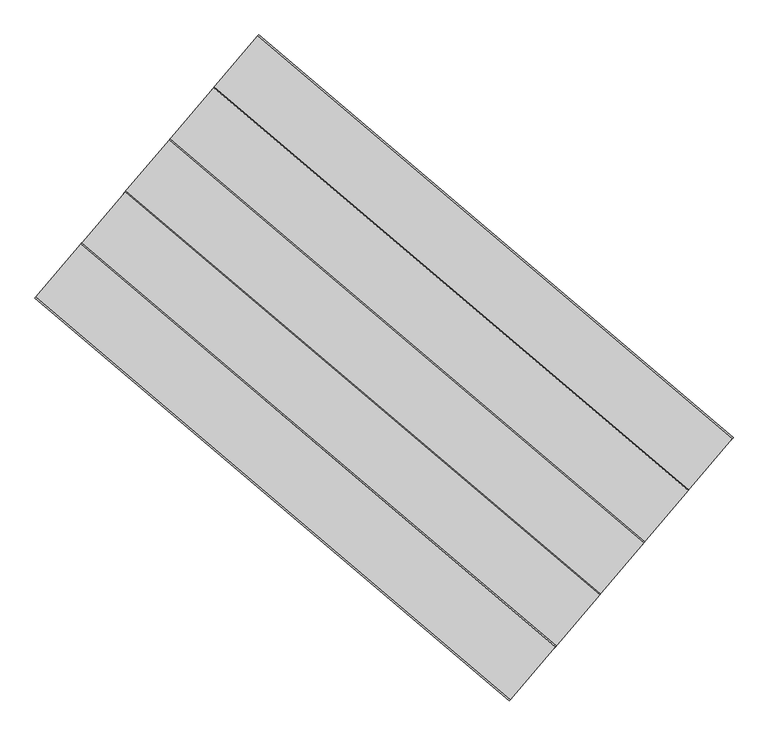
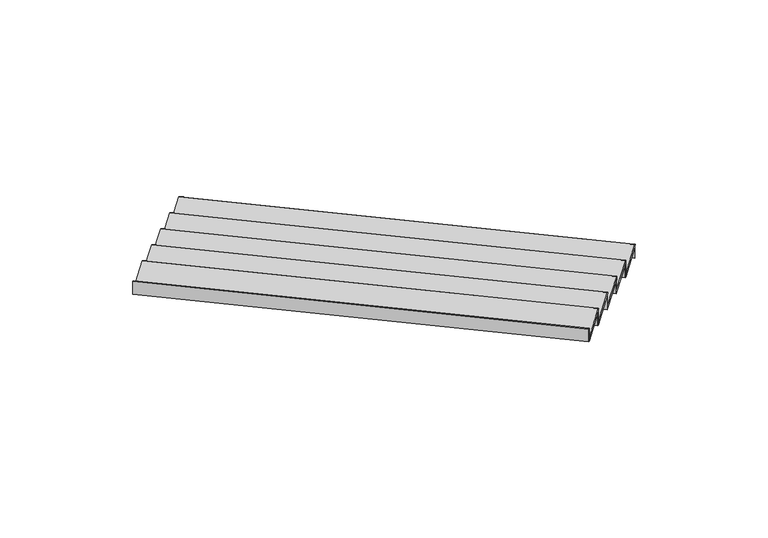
"""IFC4 building model written with IfcOpenShell, lengths in millimetres: stair flight geometry, Wood Steps with 50 mm Tread 20 mm Nosing 13 mm Riser."""

from ifc_helpers import new_model, si_unit, frame, origin, place, context, project, spatial, ellipse_curve, faceted_brep, source, transform, mapped, element, save
from ifc_brep_helpers import plane_surface, cylinder_surface, advanced_brep


def stair_flight_5db356ac(model_context):
    return source(origin(), model_context, "Body", "SolidModel", [
        advanced_brep(
        [(823418.1616626, 71948.0778749, 159.2941176), (823418.1616626, 71948.0778749, 179.2941176), (827502.2024398, 68479.0084888, 179.2941176), (827502.2024398, 68479.0084888, 159.2941176), (827114.817618, 68022.9071265, 179.2941176), (823030.7768408, 71491.9765126, 179.2941176), (827502.2024398, 68479.0084888, 129.2941176), (827114.817618, 68022.9071265, 129.2941176), (823030.7768408, 71491.9765126, 129.2941176), (823418.1616626, 71948.0778749, 129.2941176)],
        [
            (0, 1, ellipse_curve(frame((823418.1616626, 71948.0778749, 169.2941176), z_axis=(0.762187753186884, -0.6473560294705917, 0.0), x_axis=(0.647356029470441, 0.7621877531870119, 0.0)), 10.0, 10.0)),
            (1, 2),
            (2, 3, ellipse_curve(frame((827502.2024398, 68479.0084888, 169.2941176), z_axis=(-0.7621877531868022, 0.647356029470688, 0.0), x_axis=(0.6473560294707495, 0.7621877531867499, 0.0)), 10.0, 10.0)),
            (3, 0),
            (4, 2),
            (1, 5),
            (5, 4),
            (6, 7),
            (7, 8),
            (8, 9),
            (9, 6),
            (4, 7),
            (6, 3),
            (9, 0),
            (8, 5),
        ],
        [
            cylinder_surface(frame((823418.1616626, 71948.0778749, 169.2941176), z_axis=(-0.7621570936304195, 0.6473921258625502, 0.0), x_axis=(-0.6473921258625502, -0.7621570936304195, 0.0)), 10.0),
            plane_surface(frame((831427.2844799, 73100.3440831, 179.2941176), z_axis=(0.0, 0.0, 1.0), x_axis=(0.647356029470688, 0.7621877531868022, 0.0))),
            plane_surface(frame((831427.2844799, 73100.3440831, 129.2941176), z_axis=(0.0, 0.0, -1.0), x_axis=(-0.647356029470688, -0.7621877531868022, 0.0))),
            plane_surface(frame((827114.817618, 68022.9071265, 179.2941176), z_axis=(0.7621877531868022, -0.647356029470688, 0.0), x_axis=(0.0, 0.0, -1.0))),
            plane_surface(frame((827502.2024398, 68479.0084888, 179.2941176), z_axis=(0.6473921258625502, 0.7621570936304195, 0.0), x_axis=(0.0, 0.0, -1.0))),
            plane_surface(frame((823418.1616626, 71948.0778749, 179.2941176), z_axis=(-0.762187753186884, 0.6473560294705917, 0.0), x_axis=(0.0, 0.0, -1.0))),
            plane_surface(frame((823030.7768408, 71491.9765126, 179.2941176), z_axis=(-0.6473921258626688, -0.7621570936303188, 0.0), x_axis=(0.0, 0.0, -1.0))),
        ],
        [
            (0, [[1, 2, 3, 4]]),
            (1, [[5, -2, 6, 7]]),
            (2, [[8, 9, 10, 11]]),
            (3, [[-5, 12, -8, 13, -3]]),
            (4, [[-11, 14, -4, -13]]),
            (5, [[-6, -1, -14, -10, 15]]),
            (6, [[-7, -15, -9, -12]]),
        ],
    ),
        faceted_brep([(823411.6881022, 71940.4559973, 129.2941176), (823411.6881022, 71940.4559973, 0.0), (823403.5961519, 71930.9286504, 0.0), (823403.5961519, 71930.9286504, 129.2941176), (827495.7288795, 68471.3866112, 129.2941176), (827487.6369291, 68461.8592643, 129.2941176), (827487.6369291, 68461.8592643, 0.0), (827495.7288795, 68471.3866112, 0.0)], [[[0, 1, 2, 3]], [[4, 5, 6, 7]], [[1, 0, 4, 7]], [[2, 1, 7, 6]], [[3, 2, 6, 5]], [[0, 3, 5, 4]]]),
        faceted_brep([(823030.7768408, 71491.9765126, 308.5882353), (823030.7768408, 71491.9765126, 129.2941176), (823022.6848904, 71482.4491656, 129.2941176), (823022.6848904, 71482.4491656, 308.5882353), (827114.817618, 68022.9071265, 308.5882353), (827106.7256677, 68013.3797796, 308.5882353), (827106.7256677, 68013.3797796, 129.2941176), (827114.817618, 68022.9071265, 129.2941176)], [[[0, 1, 2, 3]], [[4, 5, 6, 7]], [[1, 0, 4, 7]], [[2, 1, 7, 6]], [[3, 2, 6, 5]], [[0, 3, 5, 4]]]),
        advanced_brep(
        [(826733.9063565, 67574.4276417, 358.5882353), (827121.2911783, 68030.529004, 358.5882353), (823037.2504011, 71499.5983901, 358.5882353), (822649.8655793, 71043.4970278, 358.5882353), (827121.2911783, 68030.529004, 308.5882353), (826733.9063565, 67574.4276417, 308.5882353), (822649.8655793, 71043.4970278, 308.5882353), (823037.2504011, 71499.5983901, 308.5882353), (827121.2911783, 68030.529004, 338.5882353), (823037.2504011, 71499.5983901, 338.5882353)],
        [
            (0, 1),
            (1, 2),
            (2, 3),
            (3, 0),
            (4, 5),
            (5, 6),
            (6, 7),
            (7, 4),
            (0, 5),
            (4, 8),
            (8, 1, ellipse_curve(frame((827121.2911783, 68030.529004, 348.5882353), z_axis=(0.7621877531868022, -0.647356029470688, 0.0), x_axis=(0.647356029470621, 0.7621877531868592, 0.0)), 10.0, 10.0)),
            (7, 9),
            (9, 8),
            (2, 9, ellipse_curve(frame((823037.2504011, 71499.5983901, 348.5882353), z_axis=(-0.762187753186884, 0.6473560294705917, 0.0), x_axis=(0.6473560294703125, 0.7621877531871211, 0.0)), 10.0, 10.0)),
            (6, 3),
        ],
        [
            plane_surface(frame((831427.2844799, 73100.3440831, 358.5882353), z_axis=(0.0, 0.0, 1.0), x_axis=(0.647356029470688, 0.7621877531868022, 0.0))),
            plane_surface(frame((831427.2844799, 73100.3440831, 308.5882353), z_axis=(0.0, 0.0, -1.0), x_axis=(-0.647356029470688, -0.7621877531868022, 0.0))),
            plane_surface(frame((826733.9063565, 67574.4276417, 358.5882353), z_axis=(0.7621877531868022, -0.647356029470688, 0.0), x_axis=(0.0, 0.0, -1.0))),
            plane_surface(frame((827121.2911783, 68030.529004, 358.5882353), z_axis=(0.6473921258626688, 0.7621570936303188, 0.0), x_axis=(0.0, 0.0, -1.0))),
            plane_surface(frame((823037.2504011, 71499.5983901, 358.5882353), z_axis=(-0.762187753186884, 0.6473560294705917, 0.0), x_axis=(0.0, 0.0, -1.0))),
            plane_surface(frame((822649.8655793, 71043.4970278, 358.5882353), z_axis=(-0.6473921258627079, -0.7621570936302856, 0.0), x_axis=(0.0, 0.0, -1.0))),
            cylinder_surface(frame((823037.2504011, 71499.5983901, 348.5882353), z_axis=(-0.7621570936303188, 0.6473921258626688, 0.0), x_axis=(-0.6473921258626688, -0.7621570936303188, 0.0)), 10.0),
        ],
        [
            (0, [[1, 2, 3, 4]]),
            (1, [[5, 6, 7, 8]]),
            (2, [[-1, 9, -5, 10, 11]]),
            (3, [[-8, 12, 13, -10]]),
            (4, [[-3, 14, -12, -7, 15]]),
            (5, [[-4, -15, -6, -9]]),
            (6, [[-14, -2, -11, -13]]),
        ],
    ),
        faceted_brep([(822649.8655793, 71043.4970278, 487.8823529), (822649.8655793, 71043.4970278, 308.5882353), (822641.7736289, 71033.9696809, 308.5882353), (822641.7736289, 71033.9696809, 487.8823529), (826733.9063565, 67574.4276417, 487.8823529), (826725.8144062, 67564.9002948, 487.8823529), (826725.8144062, 67564.9002948, 308.5882353), (826733.9063565, 67574.4276417, 308.5882353)], [[[0, 1, 2, 3]], [[4, 5, 6, 7]], [[1, 0, 4, 7]], [[2, 1, 7, 6]], [[3, 2, 6, 5]], [[0, 3, 5, 4]]]),
        advanced_brep(
        [(826352.9950951, 67125.948157, 537.8823529), (826740.3799169, 67582.0495193, 537.8823529), (822656.3391396, 71051.1189053, 537.8823529), (822268.9543178, 70595.017543, 537.8823529), (826740.3799169, 67582.0495193, 487.8823529), (826352.9950951, 67125.948157, 487.8823529), (822268.9543178, 70595.017543, 487.8823529), (822656.3391396, 71051.1189053, 487.8823529), (826740.3799169, 67582.0495193, 517.8823529), (822656.3391396, 71051.1189053, 517.8823529)],
        [
            (0, 1),
            (1, 2),
            (2, 3),
            (3, 0),
            (4, 5),
            (5, 6),
            (6, 7),
            (7, 4),
            (0, 5),
            (4, 8),
            (8, 1, ellipse_curve(frame((826740.3799169, 67582.0495193, 527.8823529), z_axis=(0.7621877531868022, -0.647356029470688, 0.0), x_axis=(0.647356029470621, 0.7621877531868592, 0.0)), 10.0, 10.0)),
            (7, 9),
            (9, 8),
            (2, 9, ellipse_curve(frame((822656.3391396, 71051.1189053, 527.8823529), z_axis=(-0.762187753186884, 0.6473560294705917, 0.0), x_axis=(0.6473560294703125, 0.7621877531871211, 0.0)), 10.0, 10.0)),
            (6, 3),
        ],
        [
            plane_surface(frame((831046.3732184, 72651.8645983, 537.8823529), z_axis=(0.0, 0.0, 1.0), x_axis=(0.647356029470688, 0.7621877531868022, 0.0))),
            plane_surface(frame((831046.3732184, 72651.8645983, 487.8823529), z_axis=(0.0, 0.0, -1.0), x_axis=(-0.647356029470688, -0.7621877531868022, 0.0))),
            plane_surface(frame((826352.9950951, 67125.948157, 537.8823529), z_axis=(0.7621877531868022, -0.647356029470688, 0.0), x_axis=(0.0, 0.0, -1.0))),
            plane_surface(frame((826740.3799169, 67582.0495193, 537.8823529), z_axis=(0.6473921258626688, 0.7621570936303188, 0.0), x_axis=(0.0, 0.0, -1.0))),
            plane_surface(frame((822656.3391396, 71051.1189053, 537.8823529), z_axis=(-0.762187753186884, 0.6473560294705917, 0.0), x_axis=(0.0, 0.0, -1.0))),
            plane_surface(frame((822268.9543178, 70595.017543, 537.8823529), z_axis=(-0.6473921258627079, -0.7621570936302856, 0.0), x_axis=(0.0, 0.0, -1.0))),
            cylinder_surface(frame((822656.3391396, 71051.1189053, 527.8823529), z_axis=(-0.7621570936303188, 0.6473921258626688, 0.0), x_axis=(-0.6473921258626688, -0.7621570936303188, 0.0)), 10.0),
        ],
        [
            (0, [[1, 2, 3, 4]]),
            (1, [[5, 6, 7, 8]]),
            (2, [[-1, 9, -5, 10, 11]]),
            (3, [[-8, 12, 13, -10]]),
            (4, [[-3, 14, -12, -7, 15]]),
            (5, [[-4, -15, -6, -9]]),
            (6, [[-14, -2, -11, -13]]),
        ],
    ),
        faceted_brep([(822268.9543178, 70595.017543, 667.1764706), (822268.9543178, 70595.017543, 487.8823529), (822260.8623674, 70585.4901961, 487.8823529), (822260.8623674, 70585.4901961, 667.1764706), (826352.9950951, 67125.948157, 667.1764706), (826344.9031447, 67116.42081, 667.1764706), (826344.9031447, 67116.42081, 487.8823529), (826352.9950951, 67125.948157, 487.8823529)], [[[0, 1, 2, 3]], [[4, 5, 6, 7]], [[1, 0, 4, 7]], [[2, 1, 7, 6]], [[3, 2, 6, 5]], [[0, 3, 5, 4]]]),
        advanced_brep(
        [(825972.0838336, 66677.4686722, 717.1764706), (826359.4686554, 67133.5700345, 717.1764706), (822275.4278781, 70602.6394206, 717.1764706), (821888.0430563, 70146.5380583, 717.1764706), (826359.4686554, 67133.5700345, 667.1764706), (825972.0838336, 66677.4686722, 667.1764706), (821888.0430563, 70146.5380583, 667.1764706), (822275.4278781, 70602.6394206, 667.1764706), (826359.4686554, 67133.5700345, 697.1764706), (822275.4278781, 70602.6394206, 697.1764706)],
        [
            (0, 1),
            (1, 2),
            (2, 3),
            (3, 0),
            (4, 5),
            (5, 6),
            (6, 7),
            (7, 4),
            (0, 5),
            (4, 8),
            (8, 1, ellipse_curve(frame((826359.4686554, 67133.5700345, 707.1764706), z_axis=(0.7621877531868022, -0.647356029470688, 0.0), x_axis=(0.647356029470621, 0.7621877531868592, 0.0)), 10.0, 10.0)),
            (7, 9),
            (9, 8),
            (2, 9, ellipse_curve(frame((822275.4278781, 70602.6394206, 707.1764706), z_axis=(-0.762187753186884, 0.6473560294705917, 0.0), x_axis=(0.6473560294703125, 0.7621877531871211, 0.0)), 10.0, 10.0)),
            (6, 3),
        ],
        [
            plane_surface(frame((830665.4619569, 72203.3851136, 717.1764706), z_axis=(0.0, 0.0, 1.0), x_axis=(0.647356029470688, 0.7621877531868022, 0.0))),
            plane_surface(frame((830665.4619569, 72203.3851136, 667.1764706), z_axis=(0.0, 0.0, -1.0), x_axis=(-0.647356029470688, -0.7621877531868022, 0.0))),
            plane_surface(frame((825972.0838336, 66677.4686722, 717.1764706), z_axis=(0.7621877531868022, -0.647356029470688, 0.0), x_axis=(0.0, 0.0, -1.0))),
            plane_surface(frame((826359.4686554, 67133.5700345, 717.1764706), z_axis=(0.6473921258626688, 0.7621570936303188, 0.0), x_axis=(0.0, 0.0, -1.0))),
            plane_surface(frame((822275.4278781, 70602.6394206, 717.1764706), z_axis=(-0.762187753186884, 0.6473560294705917, 0.0), x_axis=(0.0, 0.0, -1.0))),
            plane_surface(frame((821888.0430563, 70146.5380583, 717.1764706), z_axis=(-0.6473921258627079, -0.7621570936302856, 0.0), x_axis=(0.0, 0.0, -1.0))),
            cylinder_surface(frame((822275.4278781, 70602.6394206, 707.1764706), z_axis=(-0.7621570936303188, 0.6473921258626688, 0.0), x_axis=(-0.6473921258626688, -0.7621570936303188, 0.0)), 10.0),
        ],
        [
            (0, [[1, 2, 3, 4]]),
            (1, [[5, 6, 7, 8]]),
            (2, [[-1, 9, -5, 10, 11]]),
            (3, [[-8, 12, 13, -10]]),
            (4, [[-3, 14, -12, -7, 15]]),
            (5, [[-4, -15, -6, -9]]),
            (6, [[-14, -2, -11, -13]]),
        ],
    ),
        faceted_brep([(821888.0430563, 70146.5380583, 846.4705882), (821888.0430563, 70146.5380583, 667.1764706), (821879.951106, 70137.0107114, 667.1764706), (821879.951106, 70137.0107114, 846.4705882), (825972.0838336, 66677.4686722, 846.4705882), (825963.9918832, 66667.9413253, 846.4705882), (825963.9918832, 66667.9413253, 667.1764706), (825972.0838336, 66677.4686722, 667.1764706)], [[[0, 1, 2, 3]], [[4, 5, 6, 7]], [[1, 0, 4, 7]], [[2, 1, 7, 6]], [[3, 2, 6, 5]], [[0, 3, 5, 4]]]),
        faceted_brep([(821507.1317949, 69698.0585735, 1025.7647059), (821507.1317949, 69698.0585735, 846.4705882), (821499.0398445, 69688.5312266, 846.4705882), (821499.0398445, 69688.5312266, 1025.7647059), (825591.1725721, 66228.9891875, 1025.7647059), (825583.0806217, 66219.4618405, 1025.7647059), (825583.0806217, 66219.4618405, 846.4705882), (825591.1725721, 66228.9891875, 846.4705882)], [[[0, 1, 2, 3]], [[4, 5, 6, 7]], [[1, 0, 4, 7]], [[2, 1, 7, 6]], [[3, 2, 6, 5]], [[0, 3, 5, 4]]]),
        advanced_brep(
        [(825591.1725721, 66228.9891875, 896.4705882), (825978.5573939, 66685.0905498, 896.4705882), (821894.5166166, 70154.1599358, 896.4705882), (821507.1317949, 69698.0585735, 896.4705882), (825978.5573939, 66685.0905498, 846.4705882), (825591.1725721, 66228.9891875, 846.4705882), (821507.1317949, 69698.0585735, 846.4705882), (821894.5166166, 70154.1599358, 846.4705882), (825978.5573939, 66685.0905498, 876.4705882), (821894.5166166, 70154.1599358, 876.4705882)],
        [
            (0, 1),
            (1, 2),
            (2, 3),
            (3, 0),
            (4, 5),
            (5, 6),
            (6, 7),
            (7, 4),
            (0, 5),
            (4, 8),
            (8, 1, ellipse_curve(frame((825978.5573939, 66685.0905498, 886.4705882), z_axis=(0.7621877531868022, -0.647356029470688, 0.0), x_axis=(0.647356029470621, 0.7621877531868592, 0.0)), 10.0, 10.0)),
            (7, 9),
            (9, 8),
            (2, 9, ellipse_curve(frame((821894.5166166, 70154.1599358, 886.4705882), z_axis=(-0.762187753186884, 0.6473560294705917, 0.0), x_axis=(0.6473560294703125, 0.7621877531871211, 0.0)), 10.0, 10.0)),
            (6, 3),
        ],
        [
            plane_surface(frame((830284.5506954, 71754.9056288, 896.4705882), z_axis=(0.0, 0.0, 1.0), x_axis=(0.647356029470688, 0.7621877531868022, 0.0))),
            plane_surface(frame((830284.5506954, 71754.9056288, 846.4705882), z_axis=(0.0, 0.0, -1.0), x_axis=(-0.647356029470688, -0.7621877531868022, 0.0))),
            plane_surface(frame((825591.1725721, 66228.9891875, 896.4705882), z_axis=(0.7621877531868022, -0.647356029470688, 0.0), x_axis=(0.0, 0.0, -1.0))),
            plane_surface(frame((825978.5573939, 66685.0905498, 896.4705882), z_axis=(0.6473921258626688, 0.7621570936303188, 0.0), x_axis=(0.0, 0.0, -1.0))),
            plane_surface(frame((821894.5166166, 70154.1599358, 896.4705882), z_axis=(-0.762187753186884, 0.6473560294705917, 0.0), x_axis=(0.0, 0.0, -1.0))),
            plane_surface(frame((821507.1317949, 69698.0585735, 896.4705882), z_axis=(-0.6473921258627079, -0.7621570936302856, 0.0), x_axis=(0.0, 0.0, -1.0))),
            cylinder_surface(frame((821894.5166166, 70154.1599358, 886.4705882), z_axis=(-0.7621570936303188, 0.6473921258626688, 0.0), x_axis=(-0.6473921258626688, -0.7621570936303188, 0.0)), 10.0),
        ],
        [
            (0, [[1, 2, 3, 4]]),
            (1, [[5, 6, 7, 8]]),
            (2, [[-1, 9, -5, 10, 11]]),
            (3, [[-8, 12, 13, -10]]),
            (4, [[-3, 14, -12, -7, 15]]),
            (5, [[-4, -15, -6, -9]]),
            (6, [[-14, -2, -11, -13]]),
        ],
    ),
    ])


if __name__ == "__main__":
    model = new_model("IFC4")
    model_context = context("Model", 3, world=origin())
    ifc_project = project(units=[si_unit("LENGTHUNIT", "METRE", prefix="MILLI")], contexts=[model_context])
    site = spatial("IfcSite", under=ifc_project)
    building = spatial("IfcBuilding", under=site)
    placement = place(None, origin())
    stair_flight_shape = stair_flight_5db356ac(model_context)
    element("IfcStairFlight", 1, ObjectType="Wood Steps with 50 mm Tread 20 mm Nosing 13 mm Riser", at=placement, inside=building, context=model_context, shape_type="MappedRepresentation", body=[
        mapped(stair_flight_shape, transform((0.0, 0.0, 0.0), x_axis=(1.0, 0.0, 0.0), y_axis=(0.0, 1.0, 0.0), z_axis=(0.0, 0.0, 1.0))),
    ])
    save(model, "model.ifc")
